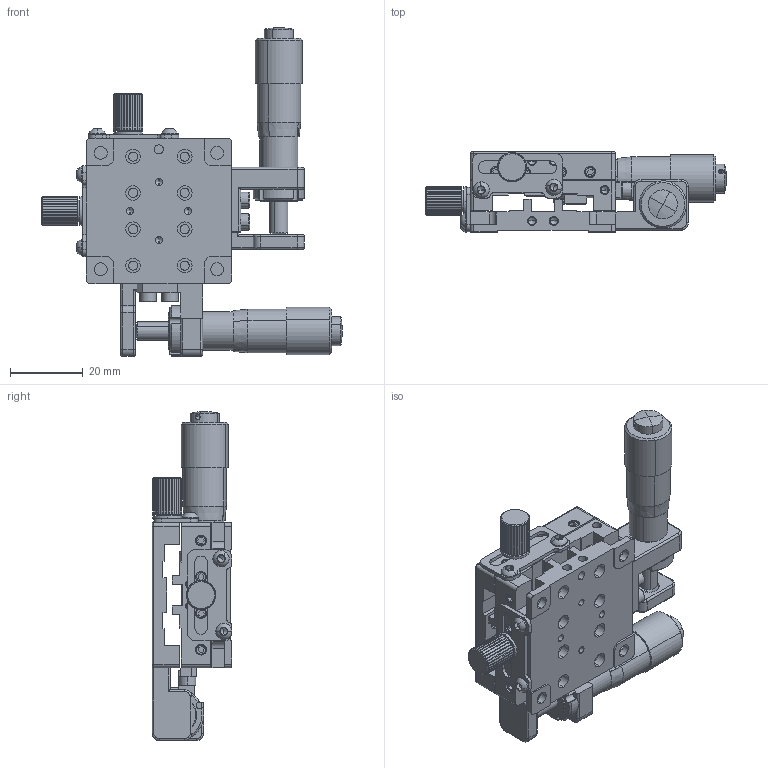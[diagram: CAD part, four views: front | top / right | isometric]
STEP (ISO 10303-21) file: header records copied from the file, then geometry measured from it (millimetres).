
FILE_DESCRIPTION (( 'STEP AP203' ), '1' );
FILE_NAME ('M-TSSJ40XY-05-BR.STEP', '2019-11-08T02:13:37', ( '¦K¬P' ), ( '' ), 'SwSTEP 2.0', 'SolidWorks 2019', '' );
FILE_SCHEMA (( 'CONFIG_CONTROL_DESIGN' ));
Products named in the file (1): M-TSSJ40XY-05-BR
Bounding box: 82.8 x 22 x 90.5 mm (x, y, z)
Volume: 36229.8 mm3; surface area: 35977.7 mm2
Topology: 47 solids, 47 shells, 1846 faces, 4533 edges, 2804 vertices
Faces by surface type: plane 785, cylinder 721, cone 250, torus 52, sphere 30, bspline 8
Entity records: 54544 total; most frequent: CARTESIAN_POINT 10151, DIRECTION 9722, ORIENTED_EDGE 8822, EDGE_CURVE 4411, AXIS2_PLACEMENT_3D 3686, VERTEX_POINT 2804, VECTOR 2350, LINE 2350
